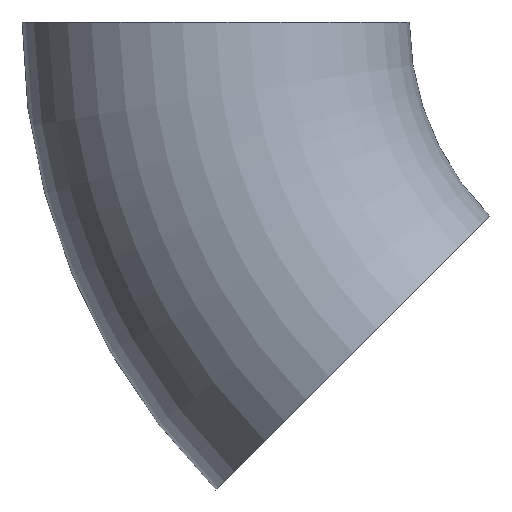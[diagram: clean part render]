
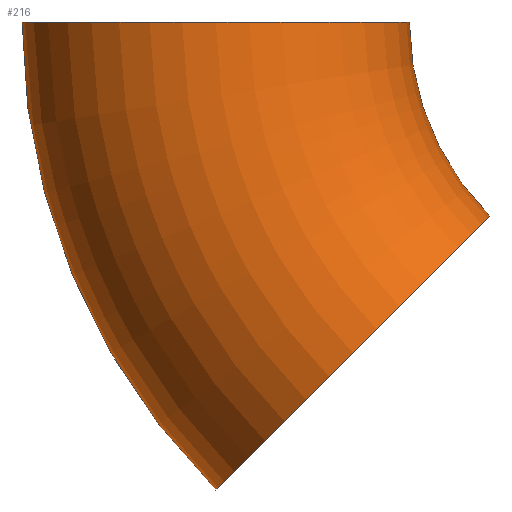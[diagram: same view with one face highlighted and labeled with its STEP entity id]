
A CAD part, front view. The second image highlights one B-rep face of the part: STEP entity #216.
In plain terms, the highlighted toroidal (fillet/blend) face has major radius 92 mm and minor radius 38.05 mm.
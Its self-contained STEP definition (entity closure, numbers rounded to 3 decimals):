
#4 = DIRECTION ( 'NONE',  ( 0., 0., 1. ) ) ;
#12 = CIRCLE ( 'NONE', #145, 38.05 ) ;
#35 = EDGE_CURVE ( 'NONE', #139, #62, #88, .T. ) ;
#36 = DIRECTION ( 'NONE',  ( 1., 0., 0. ) ) ;
#39 = CARTESIAN_POINT ( 'NONE',  ( -65.054, 0., -65.054 ) ) ;
#40 = CIRCLE ( 'NONE', #100, 53.95 ) ;
#42 = DIRECTION ( 'NONE',  ( 0., 0., 1. ) ) ;
#50 = AXIS2_PLACEMENT_3D ( 'NONE', #57, #177, #4 ) ;
#56 = EDGE_CURVE ( 'NONE', #199, #250, #12, .T. ) ;
#57 = CARTESIAN_POINT ( 'NONE',  ( 0., 0., 0. ) ) ;
#62 = VERTEX_POINT ( 'NONE', #143 ) ;
#70 = DIRECTION ( 'NONE',  ( 0., 0., 1. ) ) ;
#78 = CARTESIAN_POINT ( 'NONE',  ( -91.959, 0., -91.959 ) ) ;
#81 = CARTESIAN_POINT ( 'NONE',  ( -38.148, 0., -38.148 ) ) ;
#88 = CIRCLE ( 'NONE', #240, 38.05 ) ;
#100 = AXIS2_PLACEMENT_3D ( 'NONE', #195, #151, #153 ) ;
#102 = ORIENTED_EDGE ( 'NONE', *, *, #167, .T. ) ;
#108 = ORIENTED_EDGE ( 'NONE', *, *, #56, .T. ) ;
#120 = CIRCLE ( 'NONE', #50, 130.05 ) ;
#123 = ORIENTED_EDGE ( 'NONE', *, *, #224, .F. ) ;
#136 = CARTESIAN_POINT ( 'NONE',  ( -130.05, 0., 0. ) ) ;
#139 = VERTEX_POINT ( 'NONE', #136 ) ;
#143 = CARTESIAN_POINT ( 'NONE',  ( -53.95, 0., 0. ) ) ;
#145 = AXIS2_PLACEMENT_3D ( 'NONE', #39, #251, #211 ) ;
#150 = CARTESIAN_POINT ( 'NONE',  ( 0., 0., 0. ) ) ;
#151 = DIRECTION ( 'NONE',  ( 0., 1., 0. ) ) ;
#153 = DIRECTION ( 'NONE',  ( 0., 0., 1. ) ) ;
#156 = DIRECTION ( 'NONE',  ( 0., 1., 0. ) ) ;
#161 = CARTESIAN_POINT ( 'NONE',  ( -92., 0., 0. ) ) ;
#167 = EDGE_CURVE ( 'NONE', #250, #62, #40, .T. ) ;
#177 = DIRECTION ( 'NONE',  ( 0., 1., 0. ) ) ;
#183 = EDGE_LOOP ( 'NONE', ( #123, #108, #102, #241 ) ) ;
#195 = CARTESIAN_POINT ( 'NONE',  ( 0., 0., 0. ) ) ;
#196 = FACE_OUTER_BOUND ( 'NONE', #183, .T. ) ;
#199 = VERTEX_POINT ( 'NONE', #78 ) ;
#211 = DIRECTION ( 'NONE',  ( 0.707, 0., 0.707 ) ) ;
#212 = TOROIDAL_SURFACE ( 'NONE', #236, 92., 38.05 ) ;
#216 = ADVANCED_FACE ( 'NONE', ( #196 ), #212, .T. ) ;
#224 = EDGE_CURVE ( 'NONE', #199, #139, #120, .T. ) ;
#236 = AXIS2_PLACEMENT_3D ( 'NONE', #150, #156, #42 ) ;
#240 = AXIS2_PLACEMENT_3D ( 'NONE', #161, #70, #36 ) ;
#241 = ORIENTED_EDGE ( 'NONE', *, *, #35, .F. ) ;
#250 = VERTEX_POINT ( 'NONE', #81 ) ;
#251 = DIRECTION ( 'NONE',  ( -0.707, 0., 0.707 ) ) ;
